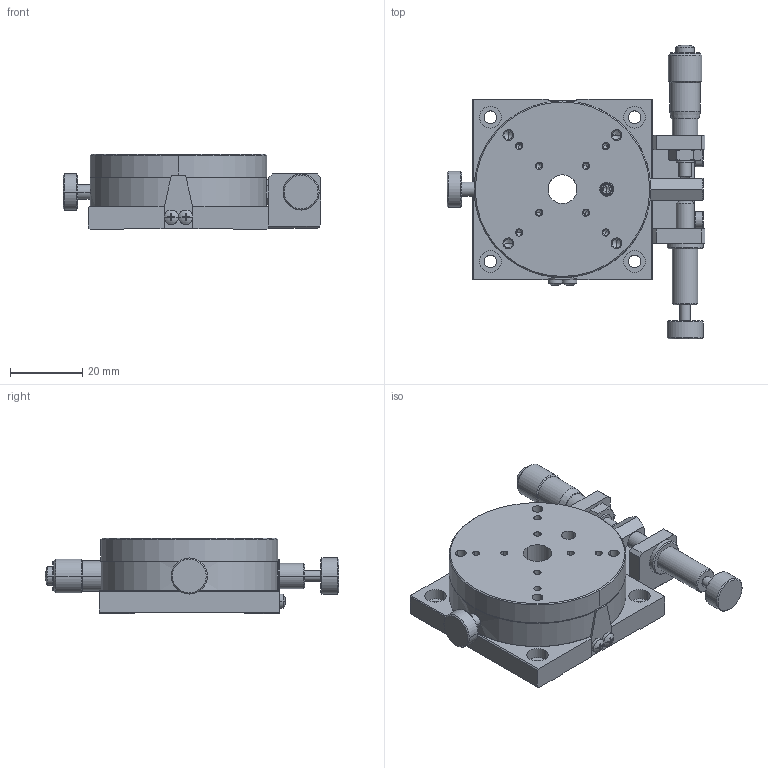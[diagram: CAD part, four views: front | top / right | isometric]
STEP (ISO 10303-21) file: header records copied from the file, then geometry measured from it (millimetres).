
FILE_DESCRIPTION (( 'STEP AP214' ), '1' );
FILE_NAME ('RM05A-D1.STEP', '2007-08-01T03:52:31', ( ' ' ), ( ' ' ), 'SwSTEP 2.0', 'SolidWorks 2006052', '' );
FILE_SCHEMA (( 'AUTOMOTIVE_DESIGN' ));
Length unit declared in the file: millimetre
Products named in the file (7): MICROMETERHEAD(MHT4-6.5)spindle-2; 000211-1130(3D)-2; 003410-1020(3D); 003410-1010(3D); 003410-1030(3D); RM05A-D1; 000211-1080(3D)-2
Assembly tree (6 placements, depth 2):
  RM05A-D1
    000211-1080(3D)-2
    003410-1020(3D)
    MICROMETERHEAD(MHT4-6.5)spindle-2
    000211-1130(3D)-2
    003410-1010(3D)
    003410-1030(3D)
Bounding box: 71.5 x 81.5 x 21 mm (x, y, z)
Volume: 45796.3 mm3; surface area: 28809.6 mm2
Topology: 6 solids, 33 shells, 1004 faces, 2235 edges, 1279 vertices
Faces by surface type: plane 375, cylinder 334, cone 269, sphere 14, torus 12
Entity records: 27465 total; most frequent: DIRECTION 5114, CARTESIAN_POINT 4841, ORIENTED_EDGE 4306, EDGE_CURVE 2153, AXIS2_PLACEMENT_3D 2000, VERTEX_POINT 1279, EDGE_LOOP 1132, VECTOR 1114
